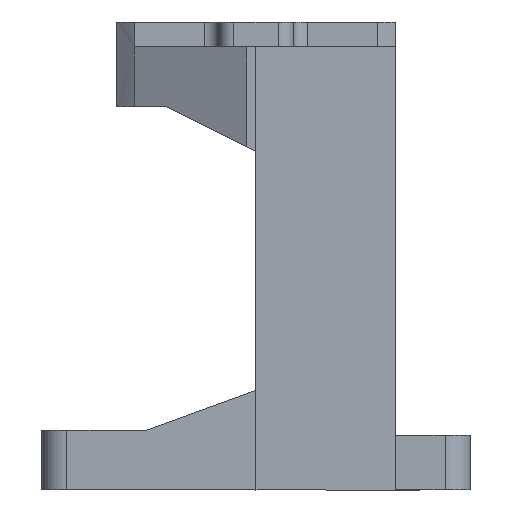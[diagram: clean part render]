
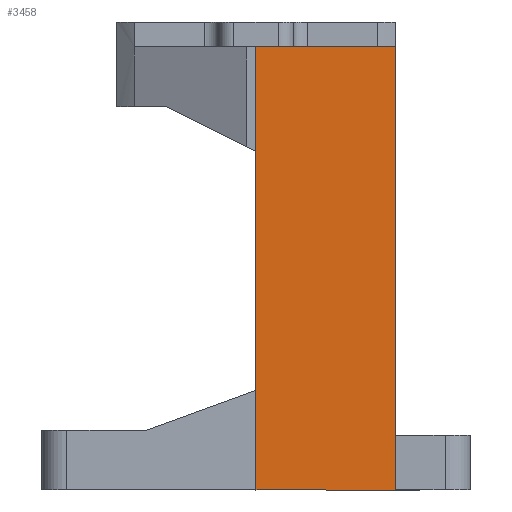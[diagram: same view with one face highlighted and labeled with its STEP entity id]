
A CAD part, left-side view. The second image highlights one B-rep face of the part: STEP entity #3458.
In plain terms, the highlighted planar face has unit normal (-1, 0, 0).
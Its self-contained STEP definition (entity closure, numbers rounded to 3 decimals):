
#71 = DIRECTION ( 'NONE',  ( 0., 0., 1. ) ) ;
#195 = VERTEX_POINT ( 'NONE', #307 ) ;
#253 = CARTESIAN_POINT ( 'NONE',  ( -44., -28., -6.5 ) ) ;
#307 = CARTESIAN_POINT ( 'NONE',  ( -44., 0., -6.5 ) ) ;
#365 = FACE_OUTER_BOUND ( 'NONE', #1596, .T. ) ;
#421 = VECTOR ( 'NONE', #71, 1000. ) ;
#686 = PLANE ( 'NONE',  #3051 ) ;
#1327 = DIRECTION ( 'NONE',  ( 0., -1., 0. ) ) ;
#1332 = LINE ( 'NONE', #3623, #1968 ) ;
#1596 = EDGE_LOOP ( 'NONE', ( #3036, #1615, #3435, #3403 ) ) ;
#1615 = ORIENTED_EDGE ( 'NONE', *, *, #1875, .F. ) ;
#1780 = CARTESIAN_POINT ( 'NONE',  ( -44., -28., 82.5 ) ) ;
#1875 = EDGE_CURVE ( 'NONE', #3111, #2270, #2791, .T. ) ;
#1968 = VECTOR ( 'NONE', #3341, 1000. ) ;
#1998 = VECTOR ( 'NONE', #3225, 1000. ) ;
#2142 = CARTESIAN_POINT ( 'NONE',  ( -44., 0., -6.5 ) ) ;
#2270 = VERTEX_POINT ( 'NONE', #1780 ) ;
#2326 = EDGE_CURVE ( 'NONE', #3854, #195, #3204, .T. ) ;
#2389 = DIRECTION ( 'NONE',  ( 0., 1., 0. ) ) ;
#2414 = VECTOR ( 'NONE', #2389, 1000. ) ;
#2543 = CARTESIAN_POINT ( 'NONE',  ( -44., 0., 82.5 ) ) ;
#2573 = CARTESIAN_POINT ( 'NONE',  ( -44., 0., 82.5 ) ) ;
#2717 = LINE ( 'NONE', #2573, #421 ) ;
#2791 = LINE ( 'NONE', #3286, #1998 ) ;
#2838 = CARTESIAN_POINT ( 'NONE',  ( -44., -28., 82.5 ) ) ;
#3036 = ORIENTED_EDGE ( 'NONE', *, *, #3813, .F. ) ;
#3051 = AXIS2_PLACEMENT_3D ( 'NONE', #2838, #3145, #1327 ) ;
#3111 = VERTEX_POINT ( 'NONE', #2543 ) ;
#3145 = DIRECTION ( 'NONE',  ( 1., 0., 0. ) ) ;
#3203 = EDGE_CURVE ( 'NONE', #195, #3111, #2717, .T. ) ;
#3204 = LINE ( 'NONE', #2142, #2414 ) ;
#3225 = DIRECTION ( 'NONE',  ( 0., -1., 0. ) ) ;
#3286 = CARTESIAN_POINT ( 'NONE',  ( -44., 0., 82.5 ) ) ;
#3341 = DIRECTION ( 'NONE',  ( 0., 0., -1. ) ) ;
#3403 = ORIENTED_EDGE ( 'NONE', *, *, #2326, .F. ) ;
#3435 = ORIENTED_EDGE ( 'NONE', *, *, #3203, .F. ) ;
#3458 = ADVANCED_FACE ( 'NONE', ( #365 ), #686, .F. ) ;
#3623 = CARTESIAN_POINT ( 'NONE',  ( -44., -28., -6.5 ) ) ;
#3813 = EDGE_CURVE ( 'NONE', #2270, #3854, #1332, .T. ) ;
#3854 = VERTEX_POINT ( 'NONE', #253 ) ;
